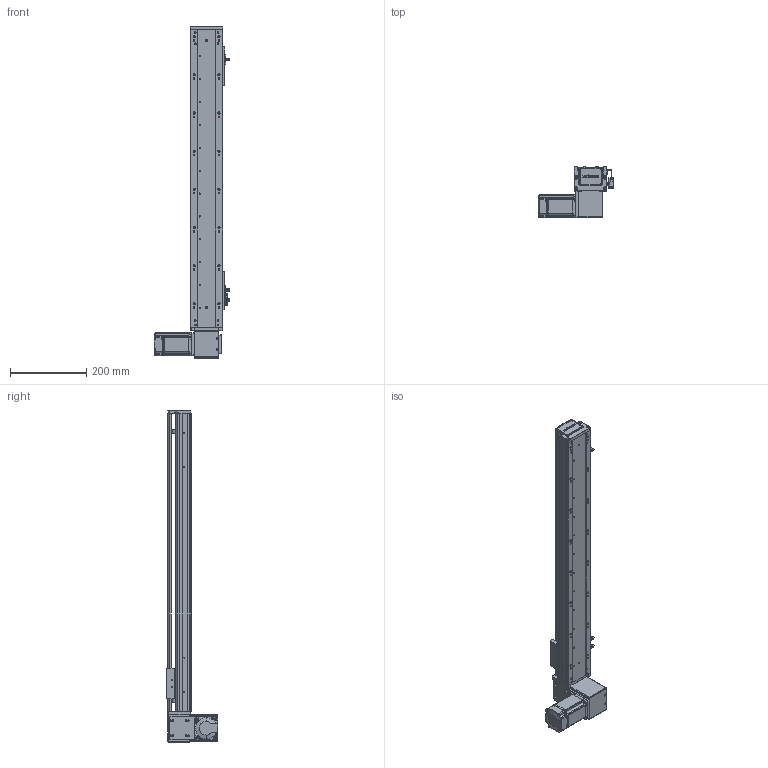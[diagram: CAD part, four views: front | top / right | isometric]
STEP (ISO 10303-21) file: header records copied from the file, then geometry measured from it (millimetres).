
FILE_DESCRIPTION (( 'STEP AP203' ), '1' );
FILE_NAME ('RY80-T-300-DL.SLDASM_600.step', '2021-03-01T01:37:58', ( '盈信电脑' ), ( '东莞市道滘镇水果街19号' ), 'SwSTEP 2.0', 'SolidWorks 2012', '' );
FILE_SCHEMA (( 'CONFIG_CONTROL_DESIGN' ));
Length unit declared in the file: millimetre
Products named in the file (19): RY80-T-300-DL.SLDASM_600; RY80-T-上下折同步轮盖板; RY100-T粣創揤踡裔; RY80-T-M4蹟翐3; RY80-T肮祭謫狟殏俋欶; RY80-T翋肮祭謫裔啣; RY80-T萇儂假蚾啣; 滅袉蝶18-10; 1; RY80-T肮祭湍揤輸2; RY80-T-翋肮祭謫釱; RY80俋离覜茼え; RY80-T肮祭湍揤輸1; 672嫖萇羲壽假蚾釱; RY80-T綴裔啣; 覜茼ん672; RY80-T肮祭謫臏賑輸; RY80-T-300-DL倰第菁釱_600; RY80-T-300-DL倰第奻裔啣_600
Assembly tree (24 placements, depth 2):
  RY80-T-300-DL.SLDASM_600
    RY80-T-300-DL倰第菁釱_600
    RY80-T肮祭謫臏賑輸
    RY80-T-300-DL倰第奻裔啣_600
    RY80-T綴裔啣
    672嫖萇羲壽假蚾釱  x2
    覜茼ん672  x3
    RY80俋离覜茼え
    RY80-T-翋肮祭謫釱
    RY80-T肮祭湍揤輸1
    RY80-T肮祭湍揤輸2
    RY80-T萇儂假蚾啣
    RY80-T翋肮祭謫裔啣  x2
    滅袉蝶18-10  x2
    1
    RY80-T肮祭謫狟殏俋欶
    RY80-T-M4蹟翐3  x2
    RY80-T-上下折同步轮盖板
    RY100-T粣創揤踡裔
Bounding box: 198.7 x 134.5 x 870 mm (x, y, z)
Volume: 1665483.2 mm3; surface area: 691336.8 mm2
Topology: 24 solids, 24 shells, 2519 faces, 6947 edges, 4511 vertices
Faces by surface type: plane 1351, cylinder 963, cone 149, bspline 56
Entity records: 79383 total; most frequent: CARTESIAN_POINT 19432, ORIENTED_EDGE 12338, DIRECTION 11552, EDGE_CURVE 6169, VERTEX_POINT 4052, AXIS2_PLACEMENT_3D 3884, LINE 3784, VECTOR 3784
